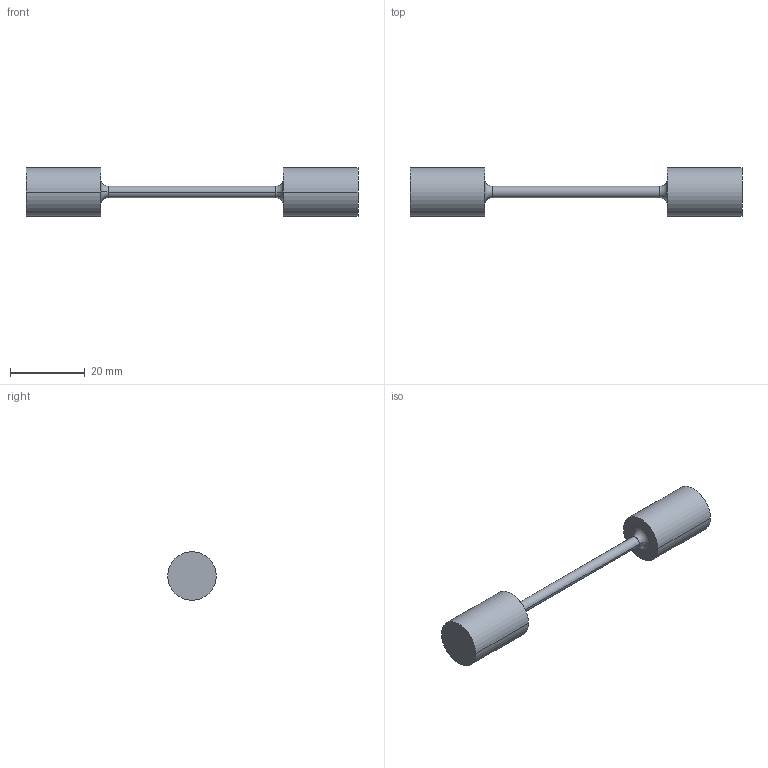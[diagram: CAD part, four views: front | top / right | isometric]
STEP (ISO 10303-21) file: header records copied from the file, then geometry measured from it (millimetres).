
FILE_DESCRIPTION(('CATIA V5 STEP Exchange'),'2;1');
FILE_NAME('F:\Stages\Stage 4A\ETEST-Liège\Documentations\Drawings\STEP\MS - Mirror Suspension\MS - Suspension Rod - SAMPLE.stp','2021-12-13T13:12:09+00:00',('none'),('none'),'CATIA Version 5 Release 19 GA (IN-10)','CATIA V5 STEP AP214','none');
FILE_SCHEMA(('AUTOMOTIVE_DESIGN { 1 0 10303 214 1 1 1 1 }'));
Length unit declared in the file: millimetre
Products named in the file (1): MS - Suspension Rod
Bounding box: 89 x 13 x 13 mm (x, y, z)
Volume: 5676.7 mm3; surface area: 2599.6 mm2
Topology: 1 solids, 1 shells, 14 faces, 26 edges, 16 vertices
Faces by surface type: cylinder 6, plane 4, torus 4
Entity records: 345 total; most frequent: CARTESIAN_POINT 54, ORIENTED_EDGE 52, DIRECTION 48, AXIS2_PLACEMENT_3D 32, EDGE_CURVE 26, CIRCLE 20, EDGE_LOOP 16, VERTEX_POINT 16
